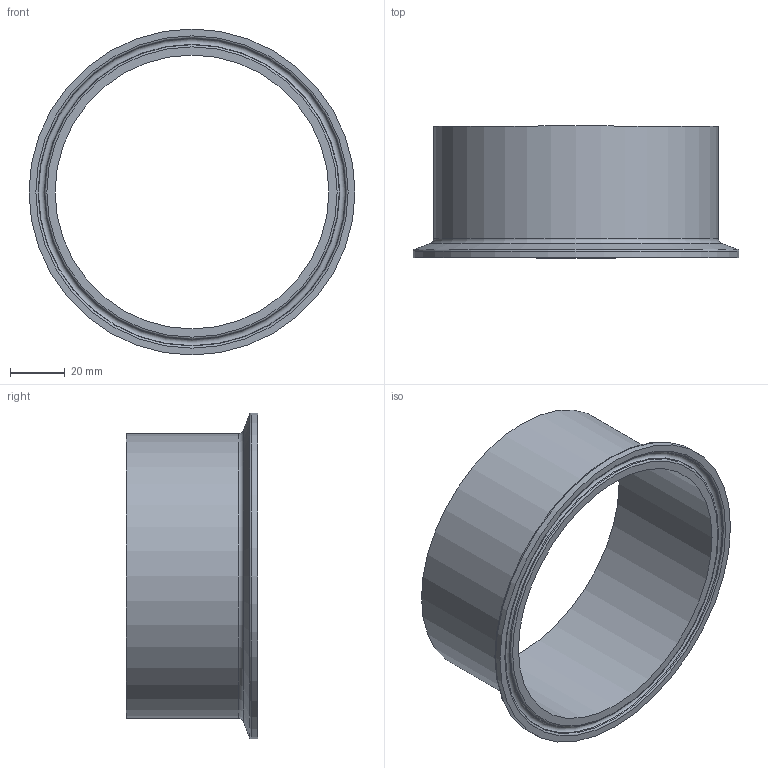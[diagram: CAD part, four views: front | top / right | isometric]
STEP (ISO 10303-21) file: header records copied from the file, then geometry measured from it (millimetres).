
FILE_DESCRIPTION(('Ferrule_104x2_L48_FL119_V02'),'2;1');
FILE_NAME('Ferrule_104x2_L48_FL119_V02.stp','2013-11-03T12:55:52',('DOCKWEILER AG'),('DOCKWEILER AG'),'Autodesk Inventor 2012','Autodesk Inventor 2012','');
FILE_SCHEMA(('CONFIG_CONTROL_DESIGN'));
Length unit declared in the file: millimetre
Products named in the file (1): N0003_003_001
Bounding box: 119 x 48 x 119 mm (x, y, z)
Volume: 40640.1 mm3; surface area: 37059 mm2
Topology: 1 solids, 1 shells, 14 faces, 25 edges, 14 vertices
Faces by surface type: torus 5, plane 3, cylinder 3, cone 3
Full cylindrical faces by diameter (mm): 100 x1, 104 x1, 119 x1
Entity records: 314 total; most frequent: DIRECTION 58, CARTESIAN_POINT 43, AXIS2_PLACEMENT_3D 29, ORIENTED_EDGE 28, EDGE_LOOP 28, VERTEX_POINT 14, CIRCLE 14, EDGE_CURVE 14
